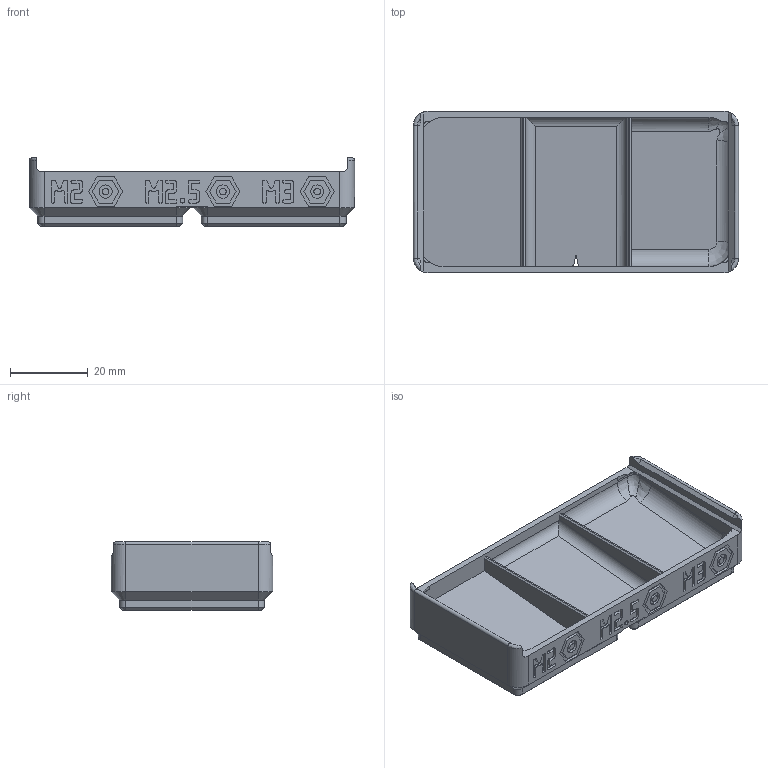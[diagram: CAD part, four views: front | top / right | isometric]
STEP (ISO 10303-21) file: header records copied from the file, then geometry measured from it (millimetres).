
FILE_DESCRIPTION(('Open CASCADE Model'),'2;1');
FILE_NAME('Open CASCADE Shape Model','2026-11-03T17:57:21',('Author'),( 'Open CASCADE'),'Open CASCADE STEP processor 8.0','build123d', 'Unknown');
FILE_SCHEMA(('AUTOMOTIVE_DESIGN { 1 0 10303 214 1 1 1 1 }'));
Products named in the file (1): COMPOUND
Bounding box: 83.5 x 41.5 x 17.55 mm (x, y, z)
Volume: 25033.3 mm3; surface area: 13257.2 mm2
Topology: 1 solids, 1 shells, 1045 faces, 2999 edges, 1974 vertices
Faces by surface type: plane 968, cylinder 45, cone 24, bspline 8
Full cylindrical faces by diameter (mm): 1.7 x3, 3.38 x3
Entity records: 71743 total; most frequent: CARTESIAN_POINT 15536, DIRECTION 9115, LINE 6801, VECTOR 6801, ORIENTED_EDGE 5998, PCURVE 5998, DEFINITIONAL_REPRESENTATION 5998, EDGE_CURVE 2999
